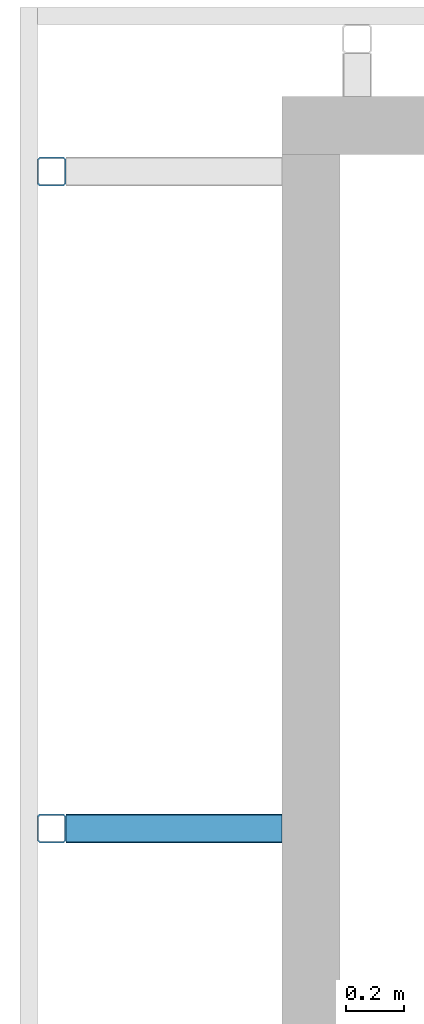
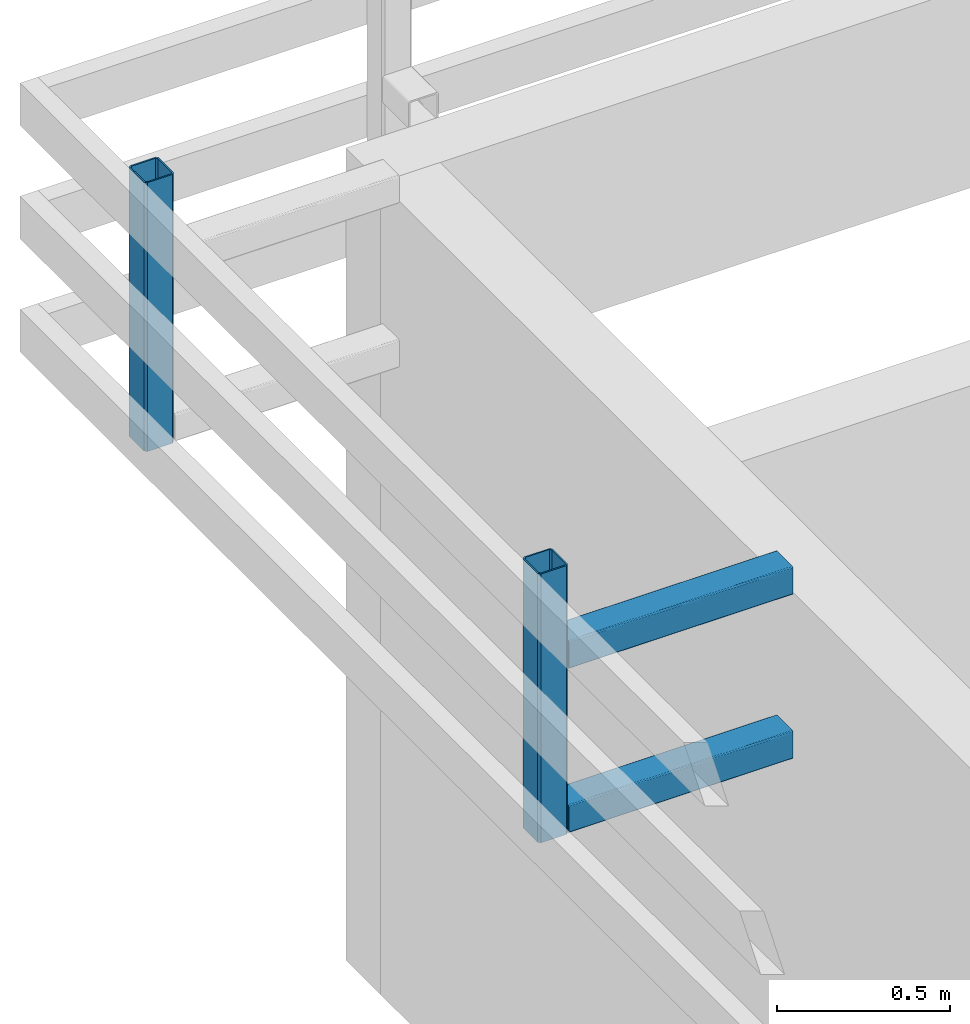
# One storey, part 13 of 42: 4 members.
"""IFC4 building model written with IfcOpenShell, lengths in metres."""

import ifcopenshell
import ifcopenshell.guid

model = None  # the IFC model being written
_history = None  # IfcOwnerHistory: only IFC2X3 demands one
_inside = {}  # id of a spatial element -> (the spatial element, [elements in it])
_under = {}  # id of a project, library or spatial element -> (it, [spatial elements below it])
_declared = {}  # id of a project -> (the project, [libraries it declares])
_typed = {}  # id of a type object -> (the type object, [elements of that type])
_made_of = {}  # id of a material, layer set ... -> (it, [elements and type objects made of it])


def new_model(schema):
    """Start an empty IFC model of exactly this schema.

    Asked for "IFC4X3", IfcOpenShell would pick the latest addendum, in which some entities
    have other attributes; the version numbers below select the first issue.
    IFC2X3 requires an IfcOwnerHistory on every rooted entity: one is made here for all.
    """
    global model, _history
    if schema == "IFC4X3":
        model = ifcopenshell.file(schema_version=(4, 3, 0, 0))
    else:
        model = ifcopenshell.file(schema=schema)
    _inside.clear()
    _under.clear()
    _declared.clear()
    _typed.clear()
    _made_of.clear()
    _history = None
    if model.schema == "IFC2X3":
        org = make("IfcOrganization", Name="unknown")
        user = make(
            "IfcPersonAndOrganization",
            ThePerson=make("IfcPerson", FamilyName="unknown"),
            TheOrganization=org,
        )
        app = make(
            "IfcApplication",
            ApplicationDeveloper=org,
            Version="unknown",
            ApplicationFullName="unknown",
            ApplicationIdentifier="unknown",
        )
        _history = make(
            "IfcOwnerHistory",
            OwningUser=user,
            OwningApplication=app,
            ChangeAction="ADDED",
            CreationDate=0,
        )
    return model


def make(cls, **values):
    """One entity of the class cls with the attributes given. An attribute that is None is left unset."""
    return model.create_entity(
        cls, **{name: value for name, value in values.items() if value is not None}
    )


def entity(cls, *values):
    """Any entity or typed value of the class cls, its attributes in the order of the schema. None: left unset."""
    e = model.create_entity(cls)
    for i, value in enumerate(values):
        if value is not None:
            e[i] = value
    return e


def rooted(cls, **values):
    """An entity with a GlobalId (a new one), such as an element, a storey or a relation."""
    return make(cls, GlobalId=ifcopenshell.guid.new(), OwnerHistory=_history, **values)


def si_unit(unit_type, name, prefix=None):
    """IfcSIUnit, for example si_unit("LENGTHUNIT", "METRE", prefix="MILLI")."""
    return make("IfcSIUnit", UnitType=unit_type, Prefix=prefix, Name=name)


def converted_unit(unit_type, name, factor, base, dimensions=None, offset=None):
    """IfcConversionBasedUnit, such as the inch: factor (a typed value) times the base unit."""
    return make(
        "IfcConversionBasedUnit"
        if offset is None
        else "IfcConversionBasedUnitWithOffset",
        ConversionOffset=offset,
        Dimensions=None
        if dimensions is None
        else entity("IfcDimensionalExponents", *dimensions),
        UnitType=unit_type,
        Name=name,
        ConversionFactor=make(
            "IfcMeasureWithUnit", ValueComponent=factor, UnitComponent=base
        ),
    )


def derived_unit(unit_type, elements):
    """IfcDerivedUnit: a product of units, each with its exponent."""
    return make(
        "IfcDerivedUnit",
        Elements=[
            make("IfcDerivedUnitElement", Unit=unit, Exponent=power)
            for unit, power in elements
        ],
        UnitType=unit_type,
    )


def assignment(units):
    """IfcUnitAssignment: the units of a project."""
    return None if units is None else make("IfcUnitAssignment", Units=units)


def point(xyz):
    """IfcCartesianPoint."""
    return None if xyz is None else make("IfcCartesianPoint", Coordinates=xyz)


def direction(xyz):
    """IfcDirection."""
    return None if xyz is None else make("IfcDirection", DirectionRatios=xyz)


def frame(location, z_axis=None, x_axis=None):
    """IfcAxis2Placement3D, a coordinate frame: its origin and axes. An axis left out is left unset."""
    return make(
        "IfcAxis2Placement3D",
        Location=point(location),
        Axis=direction(z_axis),
        RefDirection=direction(x_axis),
    )


def origin():
    """The frame at (0, 0, 0) with its axes left unset."""
    return frame((0.0, 0.0, 0.0))


def place(relative_to, where):
    """IfcLocalPlacement: puts the frame where relative to a parent placement (None: the world)."""
    return make(
        "IfcLocalPlacement", PlacementRelTo=relative_to, RelativePlacement=where
    )


def context(
    kind, dimensions, precision=None, world=None, true_north=None, identifier=None
):
    """IfcGeometricRepresentationContext, for example the 3D "Model" context."""
    return make(
        "IfcGeometricRepresentationContext",
        ContextIdentifier=identifier,
        ContextType=kind,
        CoordinateSpaceDimension=dimensions,
        Precision=precision,
        WorldCoordinateSystem=world,
        TrueNorth=true_north,
    )


def subcontext(parent, identifier, kind, view, scale=None):
    """IfcGeometricRepresentationSubContext, for example "Body" below "Model"."""
    return make(
        "IfcGeometricRepresentationSubContext",
        ContextIdentifier=identifier,
        ContextType=kind,
        ParentContext=parent,
        TargetScale=scale,
        TargetView=view,
    )


def project(units=None, contexts=None):
    """IfcProject with its units and contexts."""
    return rooted(
        "IfcProject",
        Name="project",
        RepresentationContexts=contexts,
        UnitsInContext=assignment(units),
    )


def spatial(cls, under=None, at=None, **own):
    """A site, building, storey or space (cls), placed at a placement, below another one or the project."""
    s = rooted(cls, ObjectPlacement=at, **own)
    if under is not None:
        _under.setdefault(under.id(), (under, []))[1].append(s)
    return s


def faces_of(points, faces, orient=None, outer=None):
    """IfcFace entities. A face is a list of loops; a loop is a list of indices into points, from 0.

    orient and outer hold one flag for each loop. By default every Orientation is true, the
    first loop of a face is its IfcFaceOuterBound and the others are IfcFaceBound.
    """
    made = []
    for i, loops in enumerate(faces):
        bounds = []
        for j, loop in enumerate(loops):
            is_outer = j == 0 if outer is None else outer[i][j]
            bounds.append(
                make(
                    "IfcFaceOuterBound" if is_outer else "IfcFaceBound",
                    Bound=make("IfcPolyLoop", Polygon=[points[k] for k in loop]),
                    Orientation=True if orient is None else orient[i][j],
                )
            )
        made.append(make("IfcFace", Bounds=bounds))
    return made


def faceted_brep(points, faces, orient=None, outer=None, voids=None):
    """IfcFacetedBrep: a solid bounded by flat faces; with voids (closed shells), ...WithVoids."""
    shared = [point(p) for p in points]
    hull = make("IfcClosedShell", CfsFaces=faces_of(shared, faces, orient, outer))
    if voids is None:
        return make("IfcFacetedBrep", Outer=hull)
    return make(
        "IfcFacetedBrepWithVoids",
        Outer=hull,
        Voids=[
            make(cls, CfsFaces=faces_of(shared, fs, o, b)) for cls, fs, o, b in voids
        ],
    )


def shape(context_of_items, identifier, shape_type, items):
    """IfcShapeRepresentation: the items that make up one representation, for example the "Body"."""
    return make(
        "IfcShapeRepresentation",
        ContextOfItems=context_of_items,
        RepresentationIdentifier=identifier,
        RepresentationType=shape_type,
        Items=items,
    )


def material(Name=None, Category=None):
    """IfcMaterial."""
    return make("IfcMaterial", Name=Name, Category=Category)


def made_of(thing, what):
    """Note that an element or type object is made of a material, layer set ...; save() writes the relation."""
    if what is not None:
        _made_of.setdefault(what.id(), (what, []))[1].append(thing)
    return thing


def element(
    cls,
    number,
    at=None,
    inside=None,
    cuts=None,
    type_object=None,
    material=None,
    context=None,
    identifier="Body",
    shape_type=None,
    held_by="IfcProductDefinitionShape",
    body=None,
    shapes=None,
    **own,
):
    """One element of the class cls, such as IfcWall. Its Tag is "e" and its number.

    at: its placement. inside: the storey or other place that contains it. cuts: it is an
    opening in that element (IfcRelVoidsElement). A single representation is given by context,
    identifier, shape_type and body (its items); several are given by shapes. held_by: the class
    of the entity that holds the representations. save() writes the other relations.
    """
    e = rooted(cls, Tag="e%d" % number, ObjectPlacement=at, **own)
    if body is not None:
        shapes = [shape(context, identifier, shape_type, body)]
    if shapes is not None:
        e.Representation = make(held_by, Representations=shapes)
    if inside is not None:
        _inside.setdefault(inside.id(), (inside, []))[1].append(e)
    if cuts is not None:
        rooted(
            "IfcRelVoidsElement", RelatingBuildingElement=cuts, RelatedOpeningElement=e
        )
    if type_object is not None:
        _typed.setdefault(type_object.id(), (type_object, []))[1].append(e)
    return made_of(e, material)


def aggregate(whole, parts):
    """IfcRelAggregates: a whole, such as a stair, and the parts it consists of."""
    return rooted("IfcRelAggregates", RelatingObject=whole, RelatedObjects=parts)


def save(model, path):
    """Write the relations noted so far, then the file.

    IfcRelAggregates (storeys below a building ...), IfcRelContainedInSpatialStructure (elements
    in a storey), IfcRelDefinesByType, IfcRelAssociatesMaterial and IfcRelDeclares: one each for
    every whole, place, type object, material and project.
    """
    for whole, parts in _under.values():
        aggregate(whole, parts)
    for where, things in _inside.values():
        rooted(
            "IfcRelContainedInSpatialStructure",
            RelatedElements=things,
            RelatingStructure=where,
        )
    for kind, things in _typed.values():
        rooted("IfcRelDefinesByType", RelatedObjects=things, RelatingType=kind)
    for what, things in _made_of.values():
        rooted("IfcRelAssociatesMaterial", RelatedObjects=things, RelatingMaterial=what)
    for by, libraries in _declared.values():
        rooted("IfcRelDeclares", RelatingContext=by, RelatedDefinitions=libraries)
    model.write(path)


model = new_model("IFC4")

# Units and contexts
model_context = context("Model", 3, precision=1e-05, world=origin())
plan_context = context("Plan", 2, precision=1e-05, world=origin())
body_context = subcontext(model_context, "Body", "Model", "MODEL_VIEW")
ifc_project = project(units=[si_unit("LENGTHUNIT", "METRE"), si_unit("AREAUNIT", "SQUARE_METRE"), si_unit("VOLUMEUNIT", "CUBIC_METRE"), si_unit("MASSUNIT", "GRAM", prefix="KILO"), converted_unit("PLANEANGLEUNIT", "DEGREE", entity("IfcPlaneAngleMeasure", 0.0174532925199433), si_unit("PLANEANGLEUNIT", "RADIAN"), dimensions=[0, 0, 0, 0, 0, 0, 0]), derived_unit("THERMALTRANSMITTANCEUNIT", [(si_unit("POWERUNIT", "WATT"), 1), (si_unit("THERMODYNAMICTEMPERATUREUNIT", "KELVIN"), -1), (si_unit("LENGTHUNIT", "METRE"), -2)]), derived_unit("VOLUMETRICFLOWRATEUNIT", [(si_unit("LENGTHUNIT", "METRE"), 3), (converted_unit("TIMEUNIT", "hour", entity("IfcTimeMeasure", 3600.0), si_unit("TIMEUNIT", "SECOND"), dimensions=[0, 0, 1, 0, 0, 0, 0]), -1), (si_unit("LENGTHUNIT", "METRE"), -1)])], contexts=[model_context, plan_context])

# Site, building, storey
site_placement = place(None, origin())
site = spatial("IfcSite", under=ifc_project, at=site_placement, Name="Site", CompositionType="ELEMENT")
building_placement = place(site_placement, origin())
building = spatial("IfcBuilding", under=site, at=building_placement, Name="Admin", CompositionType="ELEMENT")
storey_placement = place(building_placement, frame((0.0, 0.0, 6.61)))
storey = spatial("IfcBuildingStorey", under=building, at=storey_placement, Name="02-Etage2", CompositionType="ELEMENT", Elevation=6.61)

# Members
ifc_material_1 = material(Name="S235")
member_1_placement = place(storey_placement, frame((23.1498003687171, 19.7594493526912, 2.28)))
element("IfcMember", 1, at=member_1_placement, inside=storey, material=ifc_material_1, Name="Bandeau R+2", context=body_context, shape_type="Brep", body=[
    faceted_brep([(0.0950000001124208, 0.0900000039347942, 0.0), (0.0950000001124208, 0.0900000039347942, 0.95), (0.0950000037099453, 0.0100000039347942, 0.95), (0.0950000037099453, 0.0100000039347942, 0.0), (0.0899999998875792, 0.0950000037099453, 0.0), (0.0899999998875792, 0.0950000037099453, 0.95), (0.00999999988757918, 0.0950000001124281, 0.0), (0.00999999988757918, 0.0950000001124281, 0.95), (0.00500000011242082, 0.0899999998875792, 0.0), (0.00500000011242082, 0.0899999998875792, 0.95), (0.0050000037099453, 0.00999999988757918, 0.0), (0.0050000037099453, 0.00999999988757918, 0.95), (0.0100000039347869, 0.0050000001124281, 0.0), (0.0100000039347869, 0.0050000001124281, 0.95), (0.090000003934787, 0.0050000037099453, 0.0), (0.090000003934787, 0.0050000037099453, 0.95), (0.0925000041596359, 3.82237340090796e-09, 0.0), (0.0925000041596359, 3.82237340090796e-09, 0.95), (0.100000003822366, 0.00750000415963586, 0.95), (0.100000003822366, 0.00750000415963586, 0.0), (0.00750000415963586, 0.0, 0.0), (0.00750000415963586, 0.0, 0.95), (3.82236612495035e-09, 0.00749999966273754, 0.0), (3.82236612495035e-09, 0.00749999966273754, 0.95), (0.0, 0.0924999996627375, 0.0), (0.0, 0.0924999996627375, 0.95), (0.00749999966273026, 0.1, 0.0), (0.00749999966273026, 0.1, 0.95), (0.0924999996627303, 0.100000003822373, 0.0), (0.0924999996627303, 0.100000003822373, 0.95), (0.1, 0.0925000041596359, 0.0), (0.1, 0.0925000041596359, 0.95)], [[[0, 1, 2, 3]], [[4, 5, 1, 0]], [[6, 7, 5, 4]], [[8, 9, 7, 6]], [[10, 11, 9, 8]], [[12, 13, 11, 10]], [[14, 15, 13, 12]], [[3, 2, 15, 14]], [[16, 17, 18, 19]], [[20, 21, 17, 16]], [[22, 23, 21, 20]], [[24, 25, 23, 22]], [[26, 27, 25, 24]], [[28, 29, 27, 26]], [[30, 31, 29, 28]], [[19, 18, 31, 30]], [[18, 17, 21, 23, 25, 27, 29, 31], [2, 1, 5, 7, 9, 11, 13, 15]], [[19, 30, 28, 26, 24, 22, 20, 16], [3, 14, 12, 10, 8, 6, 4, 0]]], orient=[[False], [False], [False], [False], [False], [False], [False], [False], [False], [False], [False], [False], [False], [False], [False], [False], [False, False], [False, False]]),
])
ifc_material_2 = material(Name="S235")
member_2_placement = place(storey_placement, frame((23.1498003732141, 22.0394493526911, 2.28)))
element("IfcMember", 2, at=member_2_placement, inside=storey, material=ifc_material_2, Name="Bandeau R+2", context=body_context, shape_type="Brep", body=[
    faceted_brep([(0.0950000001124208, 0.0900000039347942, 0.0), (0.0950000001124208, 0.0900000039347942, 0.95), (0.0950000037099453, 0.0100000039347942, 0.95), (0.0950000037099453, 0.0100000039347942, 0.0), (0.0899999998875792, 0.0950000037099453, 0.0), (0.0899999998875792, 0.0950000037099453, 0.95), (0.00999999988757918, 0.0950000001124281, 0.0), (0.00999999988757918, 0.0950000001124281, 0.95), (0.00500000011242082, 0.0899999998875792, 0.0), (0.00500000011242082, 0.0899999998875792, 0.95), (0.0050000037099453, 0.00999999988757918, 0.0), (0.0050000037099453, 0.00999999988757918, 0.95), (0.0100000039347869, 0.0050000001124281, 0.0), (0.0100000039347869, 0.0050000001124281, 0.95), (0.090000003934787, 0.0050000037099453, 0.0), (0.090000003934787, 0.0050000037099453, 0.95), (0.0925000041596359, 3.82237340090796e-09, 0.0), (0.0925000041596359, 3.82237340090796e-09, 0.95), (0.100000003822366, 0.00750000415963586, 0.95), (0.100000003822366, 0.00750000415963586, 0.0), (0.00750000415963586, 0.0, 0.0), (0.00750000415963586, 0.0, 0.95), (3.82236612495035e-09, 0.00749999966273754, 0.0), (3.82236612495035e-09, 0.00749999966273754, 0.95), (0.0, 0.0924999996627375, 0.0), (0.0, 0.0924999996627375, 0.95), (0.00749999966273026, 0.1, 0.0), (0.00749999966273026, 0.1, 0.95), (0.0924999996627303, 0.100000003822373, 0.0), (0.0924999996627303, 0.100000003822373, 0.95), (0.1, 0.0925000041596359, 0.0), (0.1, 0.0925000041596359, 0.95)], [[[0, 1, 2, 3]], [[4, 5, 1, 0]], [[6, 7, 5, 4]], [[8, 9, 7, 6]], [[10, 11, 9, 8]], [[12, 13, 11, 10]], [[14, 15, 13, 12]], [[3, 2, 15, 14]], [[16, 17, 18, 19]], [[20, 21, 17, 16]], [[22, 23, 21, 20]], [[24, 25, 23, 22]], [[26, 27, 25, 24]], [[28, 29, 27, 26]], [[30, 31, 29, 28]], [[19, 18, 31, 30]], [[18, 17, 21, 23, 25, 27, 29, 31], [2, 1, 5, 7, 9, 11, 13, 15]], [[19, 30, 28, 26, 24, 22, 20, 16], [3, 14, 12, 10, 8, 6, 4, 0]]], orient=[[False], [False], [False], [False], [False], [False], [False], [False], [False], [False], [False], [False], [False], [False], [False], [False], [False, False], [False, False]]),
])
ifc_material_3 = material(Name="S235")
member_3_placement = place(storey_placement, frame((23.2498003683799, 19.7594493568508, 2.28)))
element("IfcMember", 3, at=member_3_placement, inside=storey, material=ifc_material_3, Name="Bandeau R+2", context=body_context, shape_type="Brep", body=[
    faceted_brep([(4.27205304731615e-09, 0.005, 0.09), (4.27205304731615e-09, 0.005, 0.01), (0.750000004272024, 0.00500003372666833, 0.01), (0.750000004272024, 0.00500003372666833, 0.09), (4.26863698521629e-09, 0.00507596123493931, 0.0908682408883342), (0.750000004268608, 0.00507599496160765, 0.0908682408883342), (4.25849430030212e-09, 0.00530153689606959, 0.0917101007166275), (0.750000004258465, 0.00530157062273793, 0.0917101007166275), (4.24193058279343e-09, 0.00566987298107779, 0.0925), (0.750000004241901, 0.00566990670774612, 0.0925), (4.21945151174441e-09, 0.0061697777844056, 0.0932139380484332), (0.750000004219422, 0.00616981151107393, 0.0932139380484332), (4.19173738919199e-09, 0.00678606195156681, 0.0938302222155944), (0.750000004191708, 0.00678609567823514, 0.0938302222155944), (4.1596322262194e-09, 0.0075, 0.0943301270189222), (0.750000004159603, 0.00750003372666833, 0.0943301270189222), (4.12411100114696e-09, 0.00828989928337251, 0.0946984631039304), (0.750000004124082, 0.00828993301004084, 0.0946984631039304), (4.08625419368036e-09, 0.009131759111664, 0.0949240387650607), (0.750000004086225, 0.00913179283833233, 0.0949240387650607), (4.04720776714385e-09, 0.01, 0.095), (0.750000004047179, 0.0100000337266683, 0.095), (4.49697836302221e-10, 0.09, 0.095), (0.750000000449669, 0.0900000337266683, 0.095), (4.10655047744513e-10, 0.090868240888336, 0.0949240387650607), (0.750000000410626, 0.0908682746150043, 0.0949240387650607), (3.72798240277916e-10, 0.0917101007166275, 0.0946984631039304), (0.750000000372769, 0.0917101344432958, 0.0946984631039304), (3.37277015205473e-10, 0.0925, 0.0943301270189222), (0.750000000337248, 0.0925000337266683, 0.0943301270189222), (3.05171852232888e-10, 0.0932139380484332, 0.0938302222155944), (0.750000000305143, 0.0932139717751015, 0.0938302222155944), (2.77457729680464e-10, 0.0938302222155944, 0.0932139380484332), (0.750000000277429, 0.0938302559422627, 0.0932139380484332), (2.54978658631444e-10, 0.0943301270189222, 0.0925), (0.75000000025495, 0.0943301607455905, 0.0925), (2.38414941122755e-10, 0.0946984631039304, 0.0917101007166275), (0.750000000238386, 0.0946984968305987, 0.0917101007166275), (2.28268618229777e-10, 0.0949240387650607, 0.0908682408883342), (0.75000000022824, 0.094924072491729, 0.0908682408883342), (2.24852556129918e-10, 0.095, 0.09), (0.750000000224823, 0.0950000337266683, 0.09), (2.24852556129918e-10, 0.095, 0.01), (0.750000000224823, 0.0950000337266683, 0.01), (2.28268618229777e-10, 0.0949240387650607, 0.00913175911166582), (0.75000000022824, 0.094924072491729, 0.00913175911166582), (2.38414941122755e-10, 0.0946984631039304, 0.00828989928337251), (0.750000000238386, 0.0946984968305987, 0.00828989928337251), (2.54978658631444e-10, 0.0943301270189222, 0.0075), (0.75000000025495, 0.0943301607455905, 0.0075), (2.77457729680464e-10, 0.0938302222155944, 0.00678606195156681), (0.750000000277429, 0.0938302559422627, 0.00678606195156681), (3.05171852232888e-10, 0.0932139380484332, 0.0061697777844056), (0.750000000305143, 0.0932139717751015, 0.0061697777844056), (3.37277015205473e-10, 0.0925, 0.00566987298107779), (0.750000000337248, 0.0925000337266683, 0.00566987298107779), (3.72798240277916e-10, 0.0917101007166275, 0.00530153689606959), (0.750000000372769, 0.0917101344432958, 0.00530153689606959), (4.10655047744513e-10, 0.090868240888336, 0.00507596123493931), (0.750000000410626, 0.0908682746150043, 0.00507596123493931), (4.49697836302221e-10, 0.09, 0.005), (0.750000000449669, 0.0900000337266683, 0.005), (4.04720776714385e-09, 0.01, 0.005), (0.750000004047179, 0.0100000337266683, 0.005), (4.08625419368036e-09, 0.009131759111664, 0.00507596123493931), (0.750000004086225, 0.00913179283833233, 0.00507596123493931), (4.12411100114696e-09, 0.00828989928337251, 0.00530153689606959), (0.750000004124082, 0.00828993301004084, 0.00530153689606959), (4.1596322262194e-09, 0.0075, 0.00566987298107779), (0.750000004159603, 0.00750003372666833, 0.00566987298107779), (4.19173738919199e-09, 0.00678606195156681, 0.0061697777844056), (0.750000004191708, 0.00678609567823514, 0.0061697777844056), (4.21945151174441e-09, 0.0061697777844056, 0.00678606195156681), (0.750000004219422, 0.00616981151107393, 0.00678606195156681), (4.24193058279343e-09, 0.00566987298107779, 0.0075), (0.750000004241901, 0.00566990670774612, 0.0075), (4.25849430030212e-09, 0.00530153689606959, 0.00828989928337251), (0.750000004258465, 0.00530157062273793, 0.00828989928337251), (4.26863698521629e-09, 0.00507596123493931, 0.00913175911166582), (0.750000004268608, 0.00507599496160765, 0.00913175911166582), (3.37277015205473e-10, 0.0925, 0.1), (2.78709194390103e-10, 0.0938023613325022, 0.099886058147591), (0.75000000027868, 0.0938023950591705, 0.099886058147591), (0.750000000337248, 0.0925000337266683, 0.1), (4.1596322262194e-09, 0.0075, 0.1), (0.750000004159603, 0.00750003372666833, 0.1), (4.21819640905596e-09, 0.00619763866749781, 0.099886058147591), (0.750000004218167, 0.00619767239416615, 0.099886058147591), (4.27498525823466e-09, 0.00493484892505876, 0.0995476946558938), (0.750000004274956, 0.00493488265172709, 0.0995476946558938), (4.32826345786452e-09, 0.00375, 0.0989951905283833), (0.750000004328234, 0.00375003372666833, 0.0989951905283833), (4.3764230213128e-09, 0.00267909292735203, 0.0982453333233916), (0.750000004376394, 0.00267912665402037, 0.0982453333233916), (4.41799420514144e-09, 0.00175466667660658, 0.0973209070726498), (0.750000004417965, 0.00175470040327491, 0.0973209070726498), (4.45171463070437e-09, 0.0010048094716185, 0.09625), (0.750000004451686, 0.00100484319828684, 0.09625), (4.476558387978e-09, 0.000452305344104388, 0.0950651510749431), (0.750000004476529, 0.000452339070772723, 0.0950651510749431), (4.49177605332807e-09, 0.000113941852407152, 0.0938023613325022), (0.750000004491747, 0.000113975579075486, 0.0938023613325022), (4.49689832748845e-09, 0.0, 0.0925), (0.750000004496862, 3.37266683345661e-08, 0.0925), (4.49177605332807e-09, 0.000113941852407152, 0.00619763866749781), (4.49689832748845e-09, 0.0, 0.0075), (0.750000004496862, 3.37266683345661e-08, 0.0075), (0.750000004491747, 0.000113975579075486, 0.00619763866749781), (4.476558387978e-09, 0.000452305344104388, 0.00493484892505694), (0.750000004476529, 0.000452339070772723, 0.00493484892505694), (4.45171463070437e-09, 0.0010048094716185, 0.00375), (0.750000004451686, 0.00100484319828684, 0.00375), (4.41799420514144e-09, 0.00175466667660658, 0.00267909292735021), (0.750000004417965, 0.00175470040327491, 0.00267909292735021), (4.3764230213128e-09, 0.00267909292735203, 0.00175466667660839), (0.750000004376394, 0.00267912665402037, 0.00175466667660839), (4.32826345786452e-09, 0.00375, 0.00100480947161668), (0.750000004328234, 0.00375003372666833, 0.00100480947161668), (4.27498525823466e-09, 0.00493484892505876, 0.000452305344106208), (0.750000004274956, 0.00493488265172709, 0.000452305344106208), (4.21819640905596e-09, 0.00619763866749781, 0.000113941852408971), (0.750000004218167, 0.00619767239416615, 0.000113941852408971), (4.1596322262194e-09, 0.0075, 0.0), (0.750000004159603, 0.00750003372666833, 0.0), (3.37277015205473e-10, 0.0925, 0.0), (0.750000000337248, 0.0925000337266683, 0.0), (2.78709194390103e-10, 0.0938023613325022, 0.000113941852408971), (0.75000000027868, 0.0938023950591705, 0.000113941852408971), (2.21923983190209e-10, 0.0950651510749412, 0.000452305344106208), (0.750000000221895, 0.0950651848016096, 0.000452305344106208), (1.68642145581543e-10, 0.09625, 0.00100480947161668), (0.750000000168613, 0.0962500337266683, 0.00100480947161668), (1.2048622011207e-10, 0.097320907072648, 0.00175466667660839), (0.750000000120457, 0.0973209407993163, 0.00175466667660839), (7.89150362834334e-11, 0.0982453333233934, 0.00267909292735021), (0.750000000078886, 0.0982453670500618, 0.00267909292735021), (4.51946107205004e-11, 0.0989951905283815, 0.00375), (0.750000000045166, 0.0989952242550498, 0.00375), (2.0347215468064e-11, 0.0995476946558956, 0.00493484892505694), (0.750000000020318, 0.099547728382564, 0.00493484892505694), (5.13318809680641e-12, 0.0998860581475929, 0.00619763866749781), (0.750000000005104, 0.0998860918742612, 0.00619763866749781), (0.0, 0.1, 0.0075), (0.749999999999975, 0.100000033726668, 0.0075), (5.13318809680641e-12, 0.0998860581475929, 0.0938023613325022), (0.0, 0.1, 0.0925), (0.749999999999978, 0.100000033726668, 0.0925), (0.750000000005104, 0.0998860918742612, 0.0938023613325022), (2.0347215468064e-11, 0.0995476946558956, 0.0950651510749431), (0.750000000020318, 0.099547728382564, 0.0950651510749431), (4.51946107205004e-11, 0.0989951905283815, 0.09625), (0.750000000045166, 0.0989952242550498, 0.09625), (7.89150362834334e-11, 0.0982453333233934, 0.0973209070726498), (0.750000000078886, 0.0982453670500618, 0.0973209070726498), (1.2048622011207e-10, 0.097320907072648, 0.0982453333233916), (0.750000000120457, 0.0973209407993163, 0.0982453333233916), (1.68642145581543e-10, 0.09625, 0.0989951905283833), (0.750000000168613, 0.0962500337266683, 0.0989951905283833), (2.21923983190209e-10, 0.0950651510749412, 0.0995476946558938), (0.750000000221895, 0.0950651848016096, 0.0995476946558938)], [[[0, 1, 2, 3]], [[4, 0, 3, 5]], [[6, 4, 5, 7]], [[8, 6, 7, 9]], [[10, 8, 9, 11]], [[12, 10, 11, 13]], [[14, 12, 13, 15]], [[16, 14, 15, 17]], [[18, 16, 17, 19]], [[20, 18, 19, 21]], [[22, 20, 21, 23]], [[24, 22, 23, 25]], [[26, 24, 25, 27]], [[28, 26, 27, 29]], [[30, 28, 29, 31]], [[32, 30, 31, 33]], [[34, 32, 33, 35]], [[36, 34, 35, 37]], [[38, 36, 37, 39]], [[40, 38, 39, 41]], [[42, 40, 41, 43]], [[44, 42, 43, 45]], [[46, 44, 45, 47]], [[48, 46, 47, 49]], [[50, 48, 49, 51]], [[52, 50, 51, 53]], [[54, 52, 53, 55]], [[56, 54, 55, 57]], [[58, 56, 57, 59]], [[60, 58, 59, 61]], [[62, 60, 61, 63]], [[64, 62, 63, 65]], [[66, 64, 65, 67]], [[68, 66, 67, 69]], [[70, 68, 69, 71]], [[72, 70, 71, 73]], [[74, 72, 73, 75]], [[76, 74, 75, 77]], [[78, 76, 77, 79]], [[1, 78, 79, 2]], [[80, 81, 82, 83]], [[84, 80, 83, 85]], [[86, 84, 85, 87]], [[88, 86, 87, 89]], [[90, 88, 89, 91]], [[92, 90, 91, 93]], [[94, 92, 93, 95]], [[96, 94, 95, 97]], [[98, 96, 97, 99]], [[100, 98, 99, 101]], [[102, 100, 101, 103]], [[104, 105, 106, 107]], [[108, 104, 107, 109]], [[110, 108, 109, 111]], [[112, 110, 111, 113]], [[114, 112, 113, 115]], [[116, 114, 115, 117]], [[118, 116, 117, 119]], [[120, 118, 119, 121]], [[122, 120, 121, 123]], [[124, 122, 123, 125]], [[126, 124, 125, 127]], [[128, 126, 127, 129]], [[130, 128, 129, 131]], [[132, 130, 131, 133]], [[134, 132, 133, 135]], [[136, 134, 135, 137]], [[138, 136, 137, 139]], [[140, 138, 139, 141]], [[142, 140, 141, 143]], [[144, 145, 146, 147]], [[148, 144, 147, 149]], [[150, 148, 149, 151]], [[152, 150, 151, 153]], [[154, 152, 153, 155]], [[156, 154, 155, 157]], [[158, 156, 157, 159]], [[81, 158, 159, 82]], [[146, 143, 141, 139, 137, 135, 133, 131, 129, 127, 125, 123, 121, 119, 117, 115, 113, 111, 109, 107, 106, 103, 101, 99, 97, 95, 93, 91, 89, 87, 85, 83, 82, 159, 157, 155, 153, 151, 149, 147], [2, 79, 77, 75, 73, 71, 69, 67, 65, 63, 61, 59, 57, 55, 53, 51, 49, 47, 45, 43, 41, 39, 37, 35, 33, 31, 29, 27, 25, 23, 21, 19, 17, 15, 13, 11, 9, 7, 5, 3]], [[103, 106, 105, 102]], [[102, 105, 104, 108, 110, 112, 114, 116, 118, 120, 122, 124, 126, 128, 130, 132, 134, 136, 138, 140, 142, 145, 144, 148, 150, 152, 154, 156, 158, 81, 80, 84, 86, 88, 90, 92, 94, 96, 98, 100], [1, 0, 4, 6, 8, 10, 12, 14, 16, 18, 20, 22, 24, 26, 28, 30, 32, 34, 36, 38, 40, 42, 44, 46, 48, 50, 52, 54, 56, 58, 60, 62, 64, 66, 68, 70, 72, 74, 76, 78]], [[145, 142, 143, 146]]], orient=[[False], [False], [False], [False], [False], [False], [False], [False], [False], [False], [False], [False], [False], [False], [False], [False], [False], [False], [False], [False], [False], [False], [False], [False], [False], [False], [False], [False], [False], [False], [False], [False], [False], [False], [False], [False], [False], [False], [False], [False], [False], [False], [False], [False], [False], [False], [False], [False], [False], [False], [False], [False], [False], [False], [False], [False], [False], [False], [False], [False], [False], [False], [False], [False], [False], [False], [False], [False], [False], [False], [False], [False], [False], [False], [False], [False], [False], [False], [False, False], [False], [False, False], [False]]),
])
ifc_material_4 = material(Name="S235")
member_4_placement = place(storey_placement, frame((23.2498003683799, 19.7594493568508, 2.86)))
element("IfcMember", 4, at=member_4_placement, inside=storey, material=ifc_material_4, Name="Bandeau R+2", context=body_context, shape_type="Brep", body=[
    faceted_brep([(4.27205304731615e-09, 0.005, 0.09), (4.27205304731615e-09, 0.005, 0.01), (0.750000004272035, 0.00500003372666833, 0.01), (0.750000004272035, 0.00500003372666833, 0.09), (4.26863698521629e-09, 0.00507596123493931, 0.0908682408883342), (0.750000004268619, 0.00507599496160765, 0.0908682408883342), (4.25849430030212e-09, 0.00530153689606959, 0.0917101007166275), (0.750000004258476, 0.00530157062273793, 0.0917101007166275), (4.24193058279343e-09, 0.00566987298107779, 0.0925), (0.750000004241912, 0.00566990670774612, 0.0925), (4.21945151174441e-09, 0.0061697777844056, 0.0932139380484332), (0.750000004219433, 0.00616981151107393, 0.0932139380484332), (4.19173738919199e-09, 0.00678606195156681, 0.0938302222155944), (0.750000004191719, 0.00678609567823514, 0.0938302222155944), (4.1596322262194e-09, 0.0075, 0.0943301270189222), (0.750000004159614, 0.00750003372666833, 0.0943301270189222), (4.12411100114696e-09, 0.00828989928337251, 0.0946984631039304), (0.750000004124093, 0.00828993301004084, 0.0946984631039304), (4.08625419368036e-09, 0.009131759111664, 0.0949240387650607), (0.750000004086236, 0.00913179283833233, 0.0949240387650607), (4.04720776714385e-09, 0.01, 0.095), (0.75000000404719, 0.0100000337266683, 0.095), (4.49697836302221e-10, 0.09, 0.095), (0.75000000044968, 0.0900000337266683, 0.095), (4.10655047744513e-10, 0.090868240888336, 0.0949240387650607), (0.750000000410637, 0.0908682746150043, 0.0949240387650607), (3.72798240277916e-10, 0.0917101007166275, 0.0946984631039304), (0.75000000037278, 0.0917101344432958, 0.0946984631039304), (3.37277015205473e-10, 0.0925, 0.0943301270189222), (0.750000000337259, 0.0925000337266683, 0.0943301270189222), (3.05171852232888e-10, 0.0932139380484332, 0.0938302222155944), (0.750000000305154, 0.0932139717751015, 0.0938302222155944), (2.77457729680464e-10, 0.0938302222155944, 0.0932139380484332), (0.75000000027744, 0.0938302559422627, 0.0932139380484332), (2.54978658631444e-10, 0.0943301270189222, 0.0925), (0.75000000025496, 0.0943301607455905, 0.0925), (2.38414941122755e-10, 0.0946984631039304, 0.0917101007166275), (0.750000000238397, 0.0946984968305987, 0.0917101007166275), (2.28268618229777e-10, 0.0949240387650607, 0.0908682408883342), (0.75000000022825, 0.094924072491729, 0.0908682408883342), (2.24852556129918e-10, 0.095, 0.09), (0.750000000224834, 0.0950000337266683, 0.09), (2.24852556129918e-10, 0.095, 0.01), (0.750000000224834, 0.0950000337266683, 0.01), (2.28268618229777e-10, 0.0949240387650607, 0.00913175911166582), (0.75000000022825, 0.094924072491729, 0.00913175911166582), (2.38414941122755e-10, 0.0946984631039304, 0.00828989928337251), (0.750000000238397, 0.0946984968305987, 0.00828989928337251), (2.54978658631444e-10, 0.0943301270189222, 0.0075), (0.75000000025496, 0.0943301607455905, 0.0075), (2.77457729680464e-10, 0.0938302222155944, 0.00678606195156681), (0.75000000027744, 0.0938302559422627, 0.00678606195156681), (3.05171852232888e-10, 0.0932139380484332, 0.0061697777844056), (0.750000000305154, 0.0932139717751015, 0.0061697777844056), (3.37277015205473e-10, 0.0925, 0.00566987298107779), (0.750000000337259, 0.0925000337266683, 0.00566987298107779), (3.72798240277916e-10, 0.0917101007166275, 0.00530153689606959), (0.75000000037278, 0.0917101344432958, 0.00530153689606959), (4.10655047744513e-10, 0.090868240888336, 0.00507596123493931), (0.750000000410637, 0.0908682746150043, 0.00507596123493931), (4.49697836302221e-10, 0.09, 0.005), (0.75000000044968, 0.0900000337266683, 0.005), (4.04720776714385e-09, 0.01, 0.005), (0.75000000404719, 0.0100000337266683, 0.005), (4.08625419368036e-09, 0.009131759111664, 0.00507596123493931), (0.750000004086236, 0.00913179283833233, 0.00507596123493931), (4.12411100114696e-09, 0.00828989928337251, 0.00530153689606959), (0.750000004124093, 0.00828993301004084, 0.00530153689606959), (4.1596322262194e-09, 0.0075, 0.00566987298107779), (0.750000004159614, 0.00750003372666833, 0.00566987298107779), (4.19173738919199e-09, 0.00678606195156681, 0.0061697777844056), (0.750000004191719, 0.00678609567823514, 0.0061697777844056), (4.21945151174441e-09, 0.0061697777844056, 0.00678606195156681), (0.750000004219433, 0.00616981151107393, 0.00678606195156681), (4.24193058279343e-09, 0.00566987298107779, 0.0075), (0.750000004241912, 0.00566990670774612, 0.0075), (4.25849430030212e-09, 0.00530153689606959, 0.00828989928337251), (0.750000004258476, 0.00530157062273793, 0.00828989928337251), (4.26863698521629e-09, 0.00507596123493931, 0.00913175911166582), (0.750000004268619, 0.00507599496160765, 0.00913175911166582), (3.37277015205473e-10, 0.0925, 0.1), (2.78709194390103e-10, 0.0938023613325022, 0.099886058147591), (0.750000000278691, 0.0938023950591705, 0.099886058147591), (0.750000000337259, 0.0925000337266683, 0.1), (4.1596322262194e-09, 0.0075, 0.1), (0.750000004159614, 0.00750003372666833, 0.1), (4.21819640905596e-09, 0.00619763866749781, 0.099886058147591), (0.750000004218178, 0.00619767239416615, 0.099886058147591), (4.27498525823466e-09, 0.00493484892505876, 0.0995476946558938), (0.750000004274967, 0.00493488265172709, 0.0995476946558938), (4.32826345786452e-09, 0.00375, 0.0989951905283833), (0.750000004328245, 0.00375003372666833, 0.0989951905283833), (4.3764230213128e-09, 0.00267909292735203, 0.0982453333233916), (0.750000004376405, 0.00267912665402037, 0.0982453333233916), (4.41799420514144e-09, 0.00175466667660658, 0.0973209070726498), (0.750000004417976, 0.00175470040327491, 0.0973209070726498), (4.45171463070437e-09, 0.0010048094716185, 0.09625), (0.750000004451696, 0.00100484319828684, 0.09625), (4.476558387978e-09, 0.000452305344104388, 0.0950651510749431), (0.75000000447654, 0.000452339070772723, 0.0950651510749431), (4.49177605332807e-09, 0.000113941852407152, 0.0938023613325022), (0.750000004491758, 0.000113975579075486, 0.0938023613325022), (4.49689832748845e-09, 0.0, 0.0925), (0.750000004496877, 3.37266683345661e-08, 0.0925), (4.49177605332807e-09, 0.000113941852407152, 0.00619763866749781), (4.49689832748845e-09, 0.0, 0.0075), (0.750000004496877, 3.37266683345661e-08, 0.0075), (0.750000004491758, 0.000113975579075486, 0.00619763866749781), (4.476558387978e-09, 0.000452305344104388, 0.00493484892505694), (0.75000000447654, 0.000452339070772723, 0.00493484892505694), (4.45171463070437e-09, 0.0010048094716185, 0.00375), (0.750000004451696, 0.00100484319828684, 0.00375), (4.41799420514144e-09, 0.00175466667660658, 0.00267909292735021), (0.750000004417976, 0.00175470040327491, 0.00267909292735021), (4.3764230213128e-09, 0.00267909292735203, 0.00175466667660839), (0.750000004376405, 0.00267912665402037, 0.00175466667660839), (4.32826345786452e-09, 0.00375, 0.00100480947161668), (0.750000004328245, 0.00375003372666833, 0.00100480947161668), (4.27498525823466e-09, 0.00493484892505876, 0.000452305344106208), (0.750000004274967, 0.00493488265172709, 0.000452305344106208), (4.21819640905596e-09, 0.00619763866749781, 0.000113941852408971), (0.750000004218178, 0.00619767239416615, 0.000113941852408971), (4.1596322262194e-09, 0.0075, 0.0), (0.750000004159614, 0.00750003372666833, 0.0), (3.37277015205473e-10, 0.0925, 0.0), (0.750000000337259, 0.0925000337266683, 0.0), (2.78709194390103e-10, 0.0938023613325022, 0.000113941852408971), (0.750000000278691, 0.0938023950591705, 0.000113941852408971), (2.21923983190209e-10, 0.0950651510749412, 0.000452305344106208), (0.750000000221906, 0.0950651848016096, 0.000452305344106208), (1.68642145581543e-10, 0.09625, 0.00100480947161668), (0.750000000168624, 0.0962500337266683, 0.00100480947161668), (1.2048622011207e-10, 0.097320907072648, 0.00175466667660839), (0.750000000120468, 0.0973209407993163, 0.00175466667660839), (7.89150362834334e-11, 0.0982453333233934, 0.00267909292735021), (0.750000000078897, 0.0982453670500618, 0.00267909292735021), (4.51946107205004e-11, 0.0989951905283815, 0.00375), (0.750000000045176, 0.0989952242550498, 0.00375), (2.0347215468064e-11, 0.0995476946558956, 0.00493484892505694), (0.750000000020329, 0.099547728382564, 0.00493484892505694), (5.13318809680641e-12, 0.0998860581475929, 0.00619763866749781), (0.750000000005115, 0.0998860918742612, 0.00619763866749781), (0.0, 0.1, 0.0075), (0.749999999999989, 0.100000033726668, 0.0075), (5.13318809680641e-12, 0.0998860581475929, 0.0938023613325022), (0.0, 0.1, 0.0925), (0.749999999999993, 0.100000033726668, 0.0925), (0.750000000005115, 0.0998860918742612, 0.0938023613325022), (2.0347215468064e-11, 0.0995476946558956, 0.0950651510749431), (0.750000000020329, 0.099547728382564, 0.0950651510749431), (4.51946107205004e-11, 0.0989951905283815, 0.09625), (0.750000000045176, 0.0989952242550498, 0.09625), (7.89150362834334e-11, 0.0982453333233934, 0.0973209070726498), (0.750000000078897, 0.0982453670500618, 0.0973209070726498), (1.2048622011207e-10, 0.097320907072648, 0.0982453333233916), (0.750000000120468, 0.0973209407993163, 0.0982453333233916), (1.68642145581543e-10, 0.09625, 0.0989951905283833), (0.750000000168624, 0.0962500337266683, 0.0989951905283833), (2.21923983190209e-10, 0.0950651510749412, 0.0995476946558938), (0.750000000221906, 0.0950651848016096, 0.0995476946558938)], [[[0, 1, 2, 3]], [[4, 0, 3, 5]], [[6, 4, 5, 7]], [[8, 6, 7, 9]], [[10, 8, 9, 11]], [[12, 10, 11, 13]], [[14, 12, 13, 15]], [[16, 14, 15, 17]], [[18, 16, 17, 19]], [[20, 18, 19, 21]], [[22, 20, 21, 23]], [[24, 22, 23, 25]], [[26, 24, 25, 27]], [[28, 26, 27, 29]], [[30, 28, 29, 31]], [[32, 30, 31, 33]], [[34, 32, 33, 35]], [[36, 34, 35, 37]], [[38, 36, 37, 39]], [[40, 38, 39, 41]], [[42, 40, 41, 43]], [[44, 42, 43, 45]], [[46, 44, 45, 47]], [[48, 46, 47, 49]], [[50, 48, 49, 51]], [[52, 50, 51, 53]], [[54, 52, 53, 55]], [[56, 54, 55, 57]], [[58, 56, 57, 59]], [[60, 58, 59, 61]], [[62, 60, 61, 63]], [[64, 62, 63, 65]], [[66, 64, 65, 67]], [[68, 66, 67, 69]], [[70, 68, 69, 71]], [[72, 70, 71, 73]], [[74, 72, 73, 75]], [[76, 74, 75, 77]], [[78, 76, 77, 79]], [[1, 78, 79, 2]], [[80, 81, 82, 83]], [[84, 80, 83, 85]], [[86, 84, 85, 87]], [[88, 86, 87, 89]], [[90, 88, 89, 91]], [[92, 90, 91, 93]], [[94, 92, 93, 95]], [[96, 94, 95, 97]], [[98, 96, 97, 99]], [[100, 98, 99, 101]], [[102, 100, 101, 103]], [[104, 105, 106, 107]], [[108, 104, 107, 109]], [[110, 108, 109, 111]], [[112, 110, 111, 113]], [[114, 112, 113, 115]], [[116, 114, 115, 117]], [[118, 116, 117, 119]], [[120, 118, 119, 121]], [[122, 120, 121, 123]], [[124, 122, 123, 125]], [[126, 124, 125, 127]], [[128, 126, 127, 129]], [[130, 128, 129, 131]], [[132, 130, 131, 133]], [[134, 132, 133, 135]], [[136, 134, 135, 137]], [[138, 136, 137, 139]], [[140, 138, 139, 141]], [[142, 140, 141, 143]], [[144, 145, 146, 147]], [[148, 144, 147, 149]], [[150, 148, 149, 151]], [[152, 150, 151, 153]], [[154, 152, 153, 155]], [[156, 154, 155, 157]], [[158, 156, 157, 159]], [[81, 158, 159, 82]], [[146, 143, 141, 139, 137, 135, 133, 131, 129, 127, 125, 123, 121, 119, 117, 115, 113, 111, 109, 107, 106, 103, 101, 99, 97, 95, 93, 91, 89, 87, 85, 83, 82, 159, 157, 155, 153, 151, 149, 147], [2, 79, 77, 75, 73, 71, 69, 67, 65, 63, 61, 59, 57, 55, 53, 51, 49, 47, 45, 43, 41, 39, 37, 35, 33, 31, 29, 27, 25, 23, 21, 19, 17, 15, 13, 11, 9, 7, 5, 3]], [[103, 106, 105, 102]], [[102, 105, 104, 108, 110, 112, 114, 116, 118, 120, 122, 124, 126, 128, 130, 132, 134, 136, 138, 140, 142, 145, 144, 148, 150, 152, 154, 156, 158, 81, 80, 84, 86, 88, 90, 92, 94, 96, 98, 100], [1, 0, 4, 6, 8, 10, 12, 14, 16, 18, 20, 22, 24, 26, 28, 30, 32, 34, 36, 38, 40, 42, 44, 46, 48, 50, 52, 54, 56, 58, 60, 62, 64, 66, 68, 70, 72, 74, 76, 78]], [[145, 142, 143, 146]]], orient=[[False], [False], [False], [False], [False], [False], [False], [False], [False], [False], [False], [False], [False], [False], [False], [False], [False], [False], [False], [False], [False], [False], [False], [False], [False], [False], [False], [False], [False], [False], [False], [False], [False], [False], [False], [False], [False], [False], [False], [False], [False], [False], [False], [False], [False], [False], [False], [False], [False], [False], [False], [False], [False], [False], [False], [False], [False], [False], [False], [False], [False], [False], [False], [False], [False], [False], [False], [False], [False], [False], [False], [False], [False], [False], [False], [False], [False], [False], [False, False], [False], [False, False], [False]]),
])

save(model, "model.ifc")
